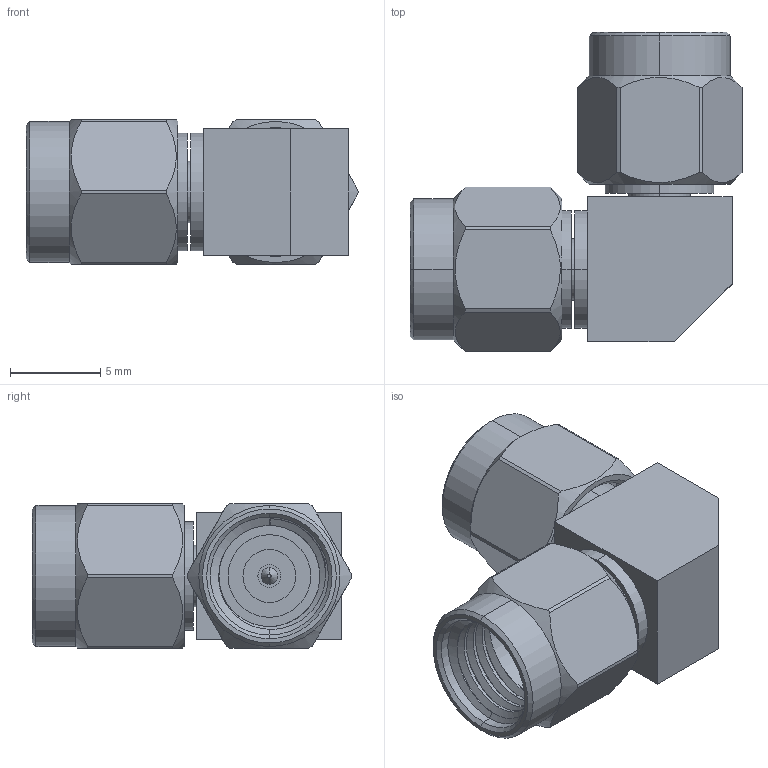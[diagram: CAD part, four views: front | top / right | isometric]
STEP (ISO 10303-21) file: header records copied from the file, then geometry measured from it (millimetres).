
FILE_DESCRIPTION (( 'STEP AP214' ), '1' );
FILE_NAME ('292-MMW-01.STEP', '2022-07-04T01:38:30', ( '' ), ( '' ), 'SwSTEP 2.0', 'SolidWorks 2014', '' );
FILE_SCHEMA (( 'AUTOMOTIVE_DESIGN' ));
Length unit declared in the file: millimetre
Products named in the file (3): SMA-J-01-01-(1); 2; 292-MMW-01
Assembly tree (3 placements, depth 2):
  292-MMW-01
    2
    SMA-J-01-01-(1)  x2
Bounding box: 18.35 x 17.65 x 7.98 mm (x, y, z)
Volume: 919.5 mm3; surface area: 1598.3 mm2
Topology: 3 solids, 3 shells, 170 faces, 409 edges, 262 vertices
Faces by surface type: cylinder 94, plane 40, cone 32, bspline 4
Entity records: 3807 total; most frequent: CARTESIAN_POINT 1239, DIRECTION 529, ORIENTED_EDGE 510, EDGE_CURVE 255, AXIS2_PLACEMENT_3D 216, VERTEX_POINT 164, EDGE_LOOP 127, FACE_OUTER_BOUND 110
